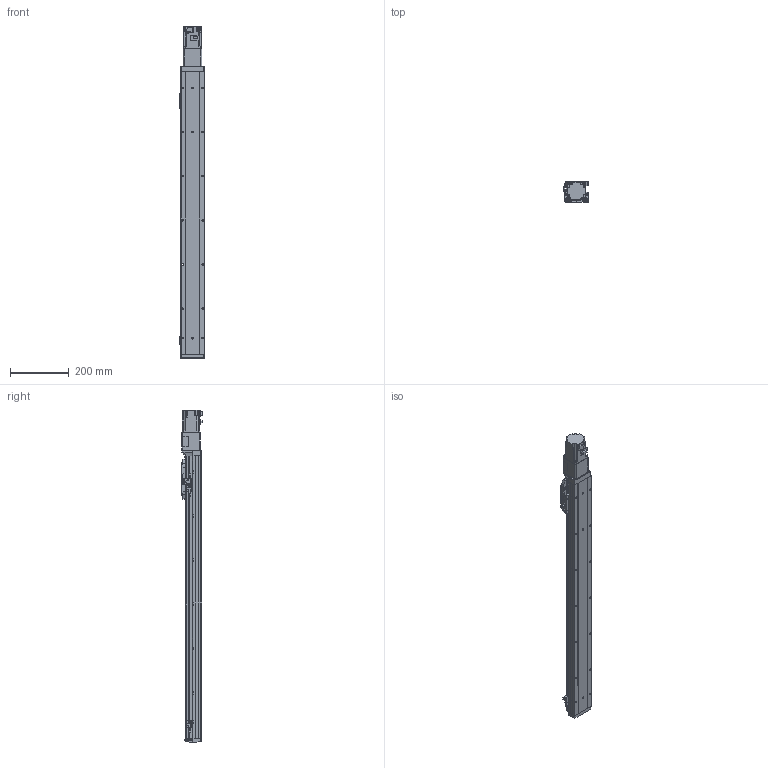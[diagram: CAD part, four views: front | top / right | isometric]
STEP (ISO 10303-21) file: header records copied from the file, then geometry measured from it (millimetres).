
FILE_DESCRIPTION (( 'STEP AP214' ), '1' );
FILE_NAME ('GSH8-800-BC-M20-1.step', '2025-01-07T06:04:25', ( '' ), ( '' ), 'SwSTEP 2.0', 'SolidWorks 2012', '' );
FILE_SCHEMA (( 'AUTOMOTIVE_DESIGN' ));
Length unit declared in the file: millimetre
Products named in the file (4): GSH8-GY-004; HG-KR23_200W_Motor; GSH8-800-BC-M20-1; GSH8-BC-011-800-M20
Assembly tree (3 placements, depth 2):
  GSH8-800-BC-M20-1
    GSH8-BC-011-800-M20
    GSH8-GY-004
    HG-KR23_200W_Motor
Bounding box: 84 x 71.3 x 1127.6 mm (x, y, z)
Volume: 2213387.4 mm3; surface area: 601350.4 mm2
Topology: 3 solids, 7 shells, 1150 faces, 3053 edges, 1968 vertices
Faces by surface type: plane 658, cylinder 400, torus 38, cone 26, bspline 24, sphere 4
Entity records: 46267 total; most frequent: CARTESIAN_POINT 11375, DIRECTION 6185, ORIENTED_EDGE 6090, EDGE_CURVE 3045, AXIS2_PLACEMENT_3D 2078, LINE 2029, VECTOR 2029, VERTEX_POINT 1964
